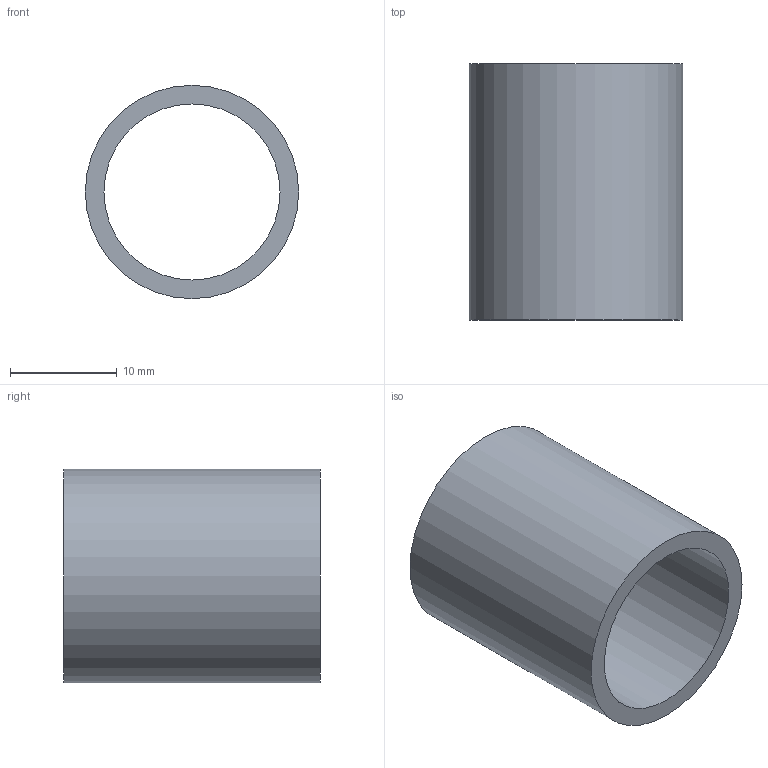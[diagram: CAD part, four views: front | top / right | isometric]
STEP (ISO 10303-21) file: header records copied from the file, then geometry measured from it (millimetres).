
FILE_DESCRIPTION(('Open CASCADE Model'),'2;1');
FILE_NAME('Open CASCADE Shape Model','2026-10-25T05:18:02',('Author'),( 'Open CASCADE'),'Open CASCADE STEP processor 7.9','Open CASCADE 7.9' ,'Unknown');
FILE_SCHEMA(('AUTOMOTIVE_DESIGN { 1 0 10303 214 1 1 1 1 }'));
Length unit declared in the file: millimetre
Products named in the file (1): Open CASCADE STEP translator 7.9 88
Bounding box: 20 x 24 x 20 mm (x, y, z)
Volume: 2408 mm3; surface area: 2952.7 mm2
Topology: 1 solids, 1 shells, 4 faces, 6 edges, 4 vertices
Faces by surface type: cylinder 2, plane 2
Full cylindrical faces by diameter (mm): 16.5 x1, 20 x1
Entity records: 186 total; most frequent: DIRECTION 32, CARTESIAN_POINT 27, ORIENTED_EDGE 12, PCURVE 12, DEFINITIONAL_REPRESENTATION 12, LINE 10, VECTOR 10, AXIS2_PLACEMENT_3D 9
